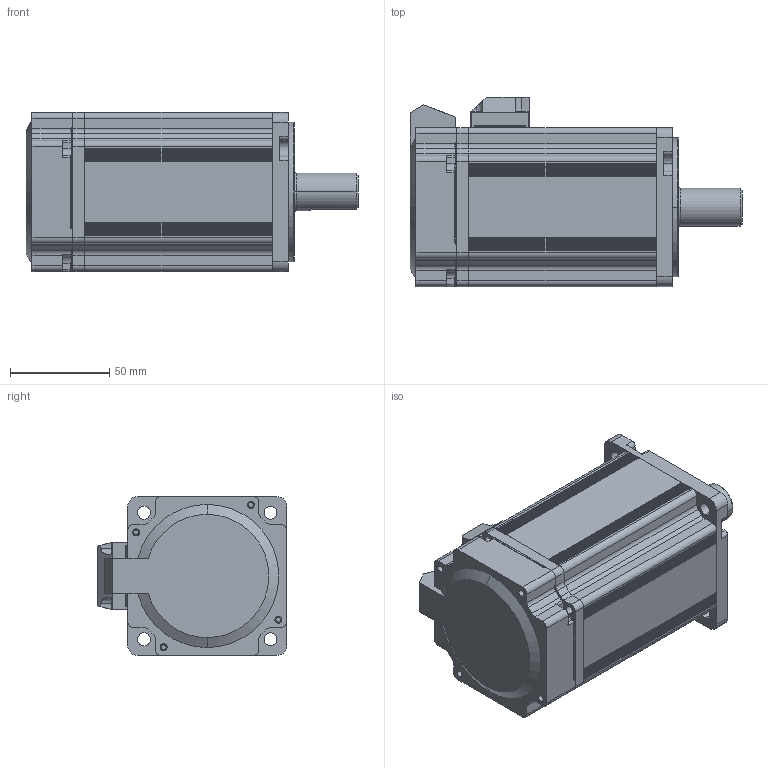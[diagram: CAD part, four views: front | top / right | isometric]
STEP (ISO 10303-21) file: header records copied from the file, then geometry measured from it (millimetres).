
FILE_DESCRIPTION (( 'STEP AP203' ), '1' );
FILE_NAME ('80小惯量低压伺服装配体.STEP', '2020-05-25T06:44:33', ( '' ), ( '' ), 'SwSTEP 2.0', 'SolidWorks 2016', '' );
FILE_SCHEMA (( 'CONFIG_CONTROL_DESIGN' ));
Length unit declared in the file: millimetre
Products named in the file (1): 80小惯量低压伺服装配体
Bounding box: 167 x 95.3 x 80 mm (x, y, z)
Surface area: 81207.4 mm2 (no closed solid volume)
Topology: 0 solids, 217 shells, 2121 faces, 7683 edges, 5685 vertices
Faces by surface type: cylinder 1353, plane 666, cone 32, sphere 28, bspline 25, torus 17
Entity records: 84223 total; most frequent: CARTESIAN_POINT 16821, DIRECTION 15387, ORIENTED_EDGE 12025, EDGE_CURVE 7683, AXIS2_PLACEMENT_3D 5701, VERTEX_POINT 5685, VECTOR 3985, LINE 3985
